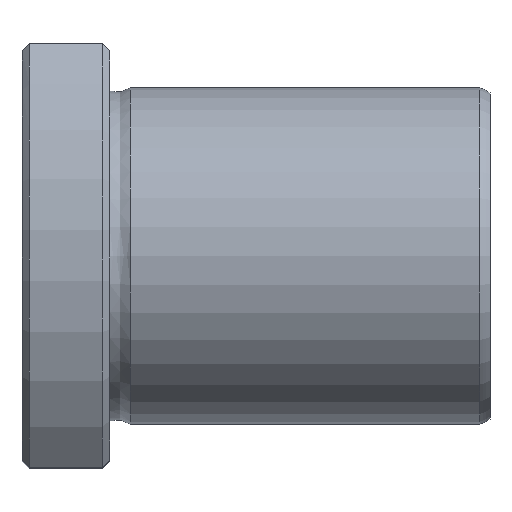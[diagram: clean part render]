
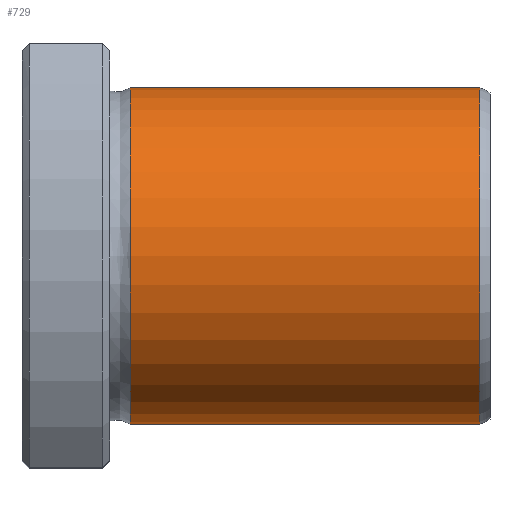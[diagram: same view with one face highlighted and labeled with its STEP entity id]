
A CAD part, top view. The second image highlights one B-rep face of the part: STEP entity #729.
In plain terms, the highlighted cylindrical face has radius 11.5 mm (diameter 23 mm), a full revolution.
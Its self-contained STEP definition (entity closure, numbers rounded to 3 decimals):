
#695=CARTESIAN_POINT('',(31.304,0.0,11.5));
#696=VERTEX_POINT('',#695);
#697=CARTESIAN_POINT('',(31.304,0.0,0.0));
#698=DIRECTION('',(-1.0,0.0,0.0));
#699=DIRECTION('',(0.0,0.0,1.0));
#700=AXIS2_PLACEMENT_3D('',#697,#698,#699);
#701=CIRCLE('',#700,11.5);
#702=EDGE_CURVE('',#696,#696,#701,.T.);
#710=CARTESIAN_POINT('',(19.352,0.0,0.0));
#711=DIRECTION('',(-1.0,0.0,0.0));
#712=DIRECTION('',(0.0,0.0,1.0));
#713=AXIS2_PLACEMENT_3D('',#710,#711,#712);
#714=CYLINDRICAL_SURFACE('',#713,11.5);
#715=CARTESIAN_POINT('',(7.4,0.0,11.5));
#716=VERTEX_POINT('',#715);
#717=CARTESIAN_POINT('',(7.4,0.0,0.0));
#718=DIRECTION('',(-1.0,0.0,0.0));
#719=DIRECTION('',(0.0,0.0,1.0));
#720=AXIS2_PLACEMENT_3D('',#717,#718,#719);
#721=CIRCLE('',#720,11.5);
#722=EDGE_CURVE('',#716,#716,#721,.T.);
#723=ORIENTED_EDGE('',*,*,#722,.F.);
#724=EDGE_LOOP('',(#723));
#725=FACE_OUTER_BOUND('',#724,.T.);
#726=ORIENTED_EDGE('',*,*,#702,.T.);
#727=EDGE_LOOP('',(#726));
#728=FACE_BOUND('',#727,.T.);
#729=ADVANCED_FACE('',(#725,#728),#714,.T.);
